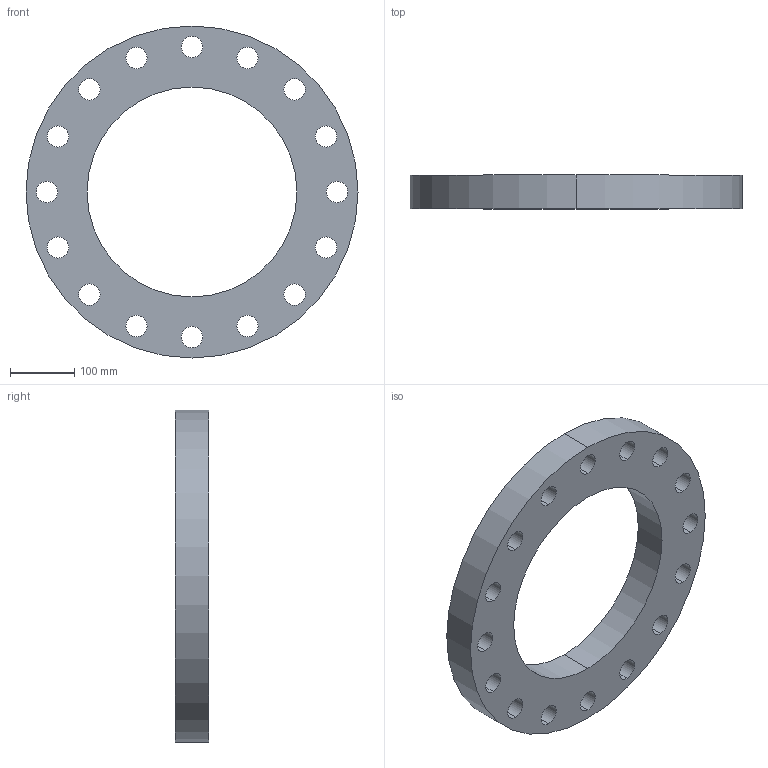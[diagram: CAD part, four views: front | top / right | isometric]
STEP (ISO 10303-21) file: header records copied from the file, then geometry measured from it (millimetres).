
FILE_DESCRIPTION (( 'STEP AP203' ), '1' );
FILE_NAME ('3D-R182_PN40_DN323_176230260.STEP', '2024-08-30T07:04:27', ( '' ), ( '' ), 'SwSTEP 2.0', 'SolidWorks 2024', '' );
FILE_SCHEMA (( 'CONFIG_CONTROL_DESIGN' ));
Length unit declared in the file: millimetre
Products named in the file (1): 3D-R182_PN40_DN323_176230260
Bounding box: 515 x 52 x 515 mm (x, y, z)
Volume: 5795942.9 mm3; surface area: 446466.6 mm2
Topology: 1 solids, 1 shells, 38 faces, 108 edges, 72 vertices
Faces by surface type: cylinder 36, plane 2
Entity records: 1429 total; most frequent: DIRECTION 258, CARTESIAN_POINT 219, ORIENTED_EDGE 216, AXIS2_PLACEMENT_3D 111, EDGE_CURVE 108, EDGE_LOOP 72, CIRCLE 72, VERTEX_POINT 72
